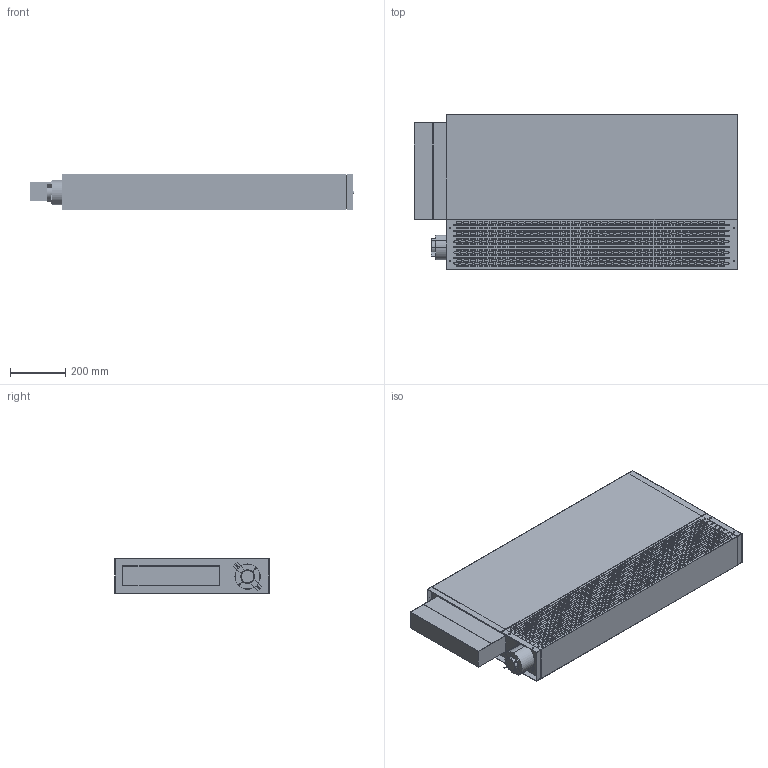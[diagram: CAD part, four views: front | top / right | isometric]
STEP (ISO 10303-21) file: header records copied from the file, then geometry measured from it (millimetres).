
FILE_DESCRIPTION (( 'STEP AP214' ), '1' );
FILE_NAME ('PFWSLA-04.STEP', '2024-09-29T14:05:49', ( '' ), ( '' ), 'SwSTEP 2.0', 'SolidWorks 2023', '' );
FILE_SCHEMA (( 'AUTOMOTIVE_DESIGN' ));
Length unit declared in the file: inch
Products named in the file (1): PFWSLA-04
Bounding box: 1177.24 x 561.98 x 130.18 mm (x, y, z)
Volume: 20637241.9 mm3; surface area: 4789400.6 mm2
Topology: 18 solids, 18 shells, 5402 faces, 15048 edges, 10016 vertices
Faces by surface type: plane 3236, cylinder 2166
Entity records: 176710 total; most frequent: CARTESIAN_POINT 30467, DIRECTION 30190, ORIENTED_EDGE 30096, EDGE_CURVE 15048, VECTOR 10712, LINE 10712, VERTEX_POINT 10016, AXIS2_PLACEMENT_3D 9739
